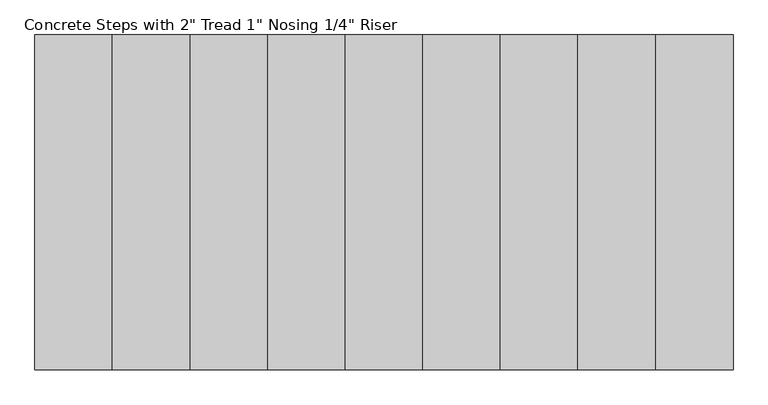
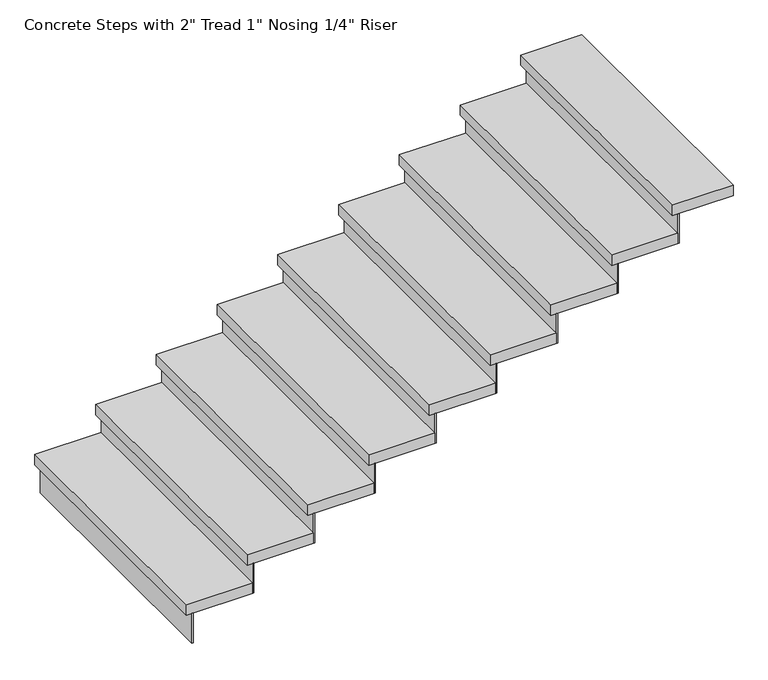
"""IFC4 building model written with IfcOpenShell, lengths in millimetres: stair flight geometry."""

import ifcopenshell
import ifcopenshell.guid

model = None  # the IFC model being written
_history = None  # IfcOwnerHistory: only IFC2X3 demands one
_inside = {}  # id of a spatial element -> (the spatial element, [elements in it])
_under = {}  # id of a project, library or spatial element -> (it, [spatial elements below it])
_declared = {}  # id of a project -> (the project, [libraries it declares])
_typed = {}  # id of a type object -> (the type object, [elements of that type])
_made_of = {}  # id of a material, layer set ... -> (it, [elements and type objects made of it])


def new_model(schema):
    """Start an empty IFC model of exactly this schema.

    Asked for "IFC4X3", IfcOpenShell would pick the latest addendum, in which some entities
    have other attributes; the version numbers below select the first issue.
    IFC2X3 requires an IfcOwnerHistory on every rooted entity: one is made here for all.
    """
    global model, _history
    if schema == "IFC4X3":
        model = ifcopenshell.file(schema_version=(4, 3, 0, 0))
    else:
        model = ifcopenshell.file(schema=schema)
    _inside.clear()
    _under.clear()
    _declared.clear()
    _typed.clear()
    _made_of.clear()
    _history = None
    if model.schema == "IFC2X3":
        org = make("IfcOrganization", Name="unknown")
        user = make(
            "IfcPersonAndOrganization",
            ThePerson=make("IfcPerson", FamilyName="unknown"),
            TheOrganization=org,
        )
        app = make(
            "IfcApplication",
            ApplicationDeveloper=org,
            Version="unknown",
            ApplicationFullName="unknown",
            ApplicationIdentifier="unknown",
        )
        _history = make(
            "IfcOwnerHistory",
            OwningUser=user,
            OwningApplication=app,
            ChangeAction="ADDED",
            CreationDate=0,
        )
    return model


def make(cls, **values):
    """One entity of the class cls with the attributes given. An attribute that is None is left unset."""
    return model.create_entity(
        cls, **{name: value for name, value in values.items() if value is not None}
    )


def rooted(cls, **values):
    """An entity with a GlobalId (a new one), such as an element, a storey or a relation."""
    return make(cls, GlobalId=ifcopenshell.guid.new(), OwnerHistory=_history, **values)


def si_unit(unit_type, name, prefix=None):
    """IfcSIUnit, for example si_unit("LENGTHUNIT", "METRE", prefix="MILLI")."""
    return make("IfcSIUnit", UnitType=unit_type, Prefix=prefix, Name=name)


def assignment(units):
    """IfcUnitAssignment: the units of a project."""
    return None if units is None else make("IfcUnitAssignment", Units=units)


def point(xyz):
    """IfcCartesianPoint."""
    return None if xyz is None else make("IfcCartesianPoint", Coordinates=xyz)


def direction(xyz):
    """IfcDirection."""
    return None if xyz is None else make("IfcDirection", DirectionRatios=xyz)


def frame(location, z_axis=None, x_axis=None):
    """IfcAxis2Placement3D, a coordinate frame: its origin and axes. An axis left out is left unset."""
    return make(
        "IfcAxis2Placement3D",
        Location=point(location),
        Axis=direction(z_axis),
        RefDirection=direction(x_axis),
    )


def origin():
    """The frame at (0, 0, 0) with its axes left unset."""
    return frame((0.0, 0.0, 0.0))


def place(relative_to, where):
    """IfcLocalPlacement: puts the frame where relative to a parent placement (None: the world)."""
    return make(
        "IfcLocalPlacement", PlacementRelTo=relative_to, RelativePlacement=where
    )


def context(
    kind, dimensions, precision=None, world=None, true_north=None, identifier=None
):
    """IfcGeometricRepresentationContext, for example the 3D "Model" context."""
    return make(
        "IfcGeometricRepresentationContext",
        ContextIdentifier=identifier,
        ContextType=kind,
        CoordinateSpaceDimension=dimensions,
        Precision=precision,
        WorldCoordinateSystem=world,
        TrueNorth=true_north,
    )


def project(units=None, contexts=None):
    """IfcProject with its units and contexts."""
    return rooted(
        "IfcProject",
        Name="project",
        RepresentationContexts=contexts,
        UnitsInContext=assignment(units),
    )


def spatial(cls, under=None, at=None, **own):
    """A site, building, storey or space (cls), placed at a placement, below another one or the project."""
    s = rooted(cls, ObjectPlacement=at, **own)
    if under is not None:
        _under.setdefault(under.id(), (under, []))[1].append(s)
    return s


def polyline(points):
    """IfcPolyline through the points."""
    return make("IfcPolyline", Points=[point(p) for p in points])


def outline(outer, holes=None, kind="AREA"):
    """IfcArbitraryClosedProfileDef: a profile drawn as a closed curve; with holes, ...WithVoids."""
    if holes is None:
        return make("IfcArbitraryClosedProfileDef", ProfileType=kind, OuterCurve=outer)
    return make(
        "IfcArbitraryProfileDefWithVoids",
        ProfileType=kind,
        OuterCurve=outer,
        InnerCurves=holes,
    )


def extrude(swept, where, along, depth):
    """IfcExtrudedAreaSolid: the profile swept, set in the frame where, extruded along a direction by depth."""
    return make(
        "IfcExtrudedAreaSolid",
        SweptArea=swept,
        Position=where,
        ExtrudedDirection=direction(along),
        Depth=depth,
    )


def shape(context_of_items, identifier, shape_type, items):
    """IfcShapeRepresentation: the items that make up one representation, for example the "Body"."""
    return make(
        "IfcShapeRepresentation",
        ContextOfItems=context_of_items,
        RepresentationIdentifier=identifier,
        RepresentationType=shape_type,
        Items=items,
    )


def source(mapping_origin, context_of_items, identifier, shape_type, items):
    """IfcRepresentationMap: a shape defined once, which mapped items show again and again."""
    return make(
        "IfcRepresentationMap",
        MappingOrigin=mapping_origin,
        MappedRepresentation=shape(context_of_items, identifier, shape_type, items),
    )


def transform(
    local_origin,
    x_axis=None,
    y_axis=None,
    z_axis=None,
    scale=None,
    scale2=None,
    scale3=None,
    uniform=True,
):
    """IfcCartesianTransformationOperator3D, or its non-uniform kind. x_axis, y_axis, z_axis: its Axis1, 2, 3."""
    if uniform:
        return make(
            "IfcCartesianTransformationOperator3D",
            Axis1=direction(x_axis),
            Axis2=direction(y_axis),
            LocalOrigin=point(local_origin),
            Scale=scale,
            Axis3=direction(z_axis),
        )
    return make(
        "IfcCartesianTransformationOperator3DnonUniform",
        Axis1=direction(x_axis),
        Axis2=direction(y_axis),
        LocalOrigin=point(local_origin),
        Scale=scale,
        Axis3=direction(z_axis),
        Scale2=scale2,
        Scale3=scale3,
    )


def mapped(mapping_source, mapping_target):
    """IfcMappedItem: shows the shape of a source again, moved by a transform."""
    return make(
        "IfcMappedItem", MappingSource=mapping_source, MappingTarget=mapping_target
    )


def made_of(thing, what):
    """Note that an element or type object is made of a material, layer set ...; save() writes the relation."""
    if what is not None:
        _made_of.setdefault(what.id(), (what, []))[1].append(thing)
    return thing


def element(
    cls,
    number,
    at=None,
    inside=None,
    cuts=None,
    type_object=None,
    material=None,
    context=None,
    identifier="Body",
    shape_type=None,
    held_by="IfcProductDefinitionShape",
    body=None,
    shapes=None,
    **own,
):
    """One element of the class cls, such as IfcWall. Its Tag is "e" and its number.

    at: its placement. inside: the storey or other place that contains it. cuts: it is an
    opening in that element (IfcRelVoidsElement). A single representation is given by context,
    identifier, shape_type and body (its items); several are given by shapes. held_by: the class
    of the entity that holds the representations. save() writes the other relations.
    """
    e = rooted(cls, Tag="e%d" % number, ObjectPlacement=at, **own)
    if body is not None:
        shapes = [shape(context, identifier, shape_type, body)]
    if shapes is not None:
        e.Representation = make(held_by, Representations=shapes)
    if inside is not None:
        _inside.setdefault(inside.id(), (inside, []))[1].append(e)
    if cuts is not None:
        rooted(
            "IfcRelVoidsElement", RelatingBuildingElement=cuts, RelatedOpeningElement=e
        )
    if type_object is not None:
        _typed.setdefault(type_object.id(), (type_object, []))[1].append(e)
    return made_of(e, material)


def aggregate(whole, parts):
    """IfcRelAggregates: a whole, such as a stair, and the parts it consists of."""
    return rooted("IfcRelAggregates", RelatingObject=whole, RelatedObjects=parts)


def save(model, path):
    """Write the relations noted so far, then the file.

    IfcRelAggregates (storeys below a building ...), IfcRelContainedInSpatialStructure (elements
    in a storey), IfcRelDefinesByType, IfcRelAssociatesMaterial and IfcRelDeclares: one each for
    every whole, place, type object, material and project.
    """
    for whole, parts in _under.values():
        aggregate(whole, parts)
    for where, things in _inside.values():
        rooted(
            "IfcRelContainedInSpatialStructure",
            RelatedElements=things,
            RelatingStructure=where,
        )
    for kind, things in _typed.values():
        rooted("IfcRelDefinesByType", RelatedObjects=things, RelatingType=kind)
    for what, things in _made_of.values():
        rooted("IfcRelAssociatesMaterial", RelatedObjects=things, RelatingMaterial=what)
    for by, libraries in _declared.values():
        rooted("IfcRelDeclares", RelatingContext=by, RelatedDefinitions=libraries)
    model.write(path)


def stair_flight_99da53d7(model_context):
    return source(origin(), model_context, "Body", "SweptSolid", [
        extrude(outline(polyline([(-9956.5313244, -31423.1861116), (-9962.8813244, -31423.1861116), (-9962.8813244, -30217.3006776), (-9956.5313244, -30217.3006776), (-9956.5313244, -31423.1861116)])), frame((0.0, 0.0, 1690.9142857), z_axis=(0.0, 0.0, 1.0), x_axis=(1.0, 0.0, 0.0)), (0.0, 0.0, 1.0), 145.1428571),
        extrude(outline(polyline([(-9683.4813244, -30217.3006776), (-9683.4813244, -31423.1861116), (-9988.2813244, -31423.1861116), (-9988.2813244, -30217.3006776), (-9683.4813244, -30217.3006776)])), frame((0.0, 0.0, 1836.0571429), z_axis=(0.0, 0.0, 1.0), x_axis=(1.0, 0.0, 0.0)), (0.0, 0.0, 1.0), 50.8),
        extrude(outline(polyline([(-9677.1313244, -31423.1861116), (-9683.4813244, -31423.1861116), (-9683.4813244, -30217.3006776), (-9677.1313244, -30217.3006776), (-9677.1313244, -31423.1861116)])), frame((0.0, 0.0, 1836.0571429), z_axis=(0.0, 0.0, 1.0), x_axis=(1.0, 0.0, 0.0)), (0.0, 0.0, 1.0), 145.1428571),
        extrude(outline(polyline([(-9404.0813244, -30217.3006776), (-9404.0813244, -31423.1861116), (-9708.8813244, -31423.1861116), (-9708.8813244, -30217.3006776), (-9404.0813244, -30217.3006776)])), frame((0.0, 0.0, 1981.2), z_axis=(0.0, 0.0, 1.0), x_axis=(1.0, 0.0, 0.0)), (0.0, 0.0, 1.0), 50.8),
        extrude(outline(polyline([(-9397.7313244, -31423.1861116), (-9404.0813244, -31423.1861116), (-9404.0813244, -30217.3006776), (-9397.7313244, -30217.3006776), (-9397.7313244, -31423.1861116)])), frame((0.0, 0.0, 1981.2), z_axis=(0.0, 0.0, 1.0), x_axis=(1.0, 0.0, 0.0)), (0.0, 0.0, 1.0), 145.1428571),
        extrude(outline(polyline([(-9124.6813244, -30217.3006776), (-9124.6813244, -31423.1861116), (-9429.4813244, -31423.1861116), (-9429.4813244, -30217.3006776), (-9124.6813244, -30217.3006776)])), frame((0.0, 0.0, 2126.3428571), z_axis=(0.0, 0.0, 1.0), x_axis=(1.0, 0.0, 0.0)), (0.0, 0.0, 1.0), 50.8),
        extrude(outline(polyline([(-9118.3313244, -31423.1861116), (-9124.6813244, -31423.1861116), (-9124.6813244, -30217.3006776), (-9118.3313244, -30217.3006776), (-9118.3313244, -31423.1861116)])), frame((0.0, 0.0, 2126.3428571), z_axis=(0.0, 0.0, 1.0), x_axis=(1.0, 0.0, 0.0)), (0.0, 0.0, 1.0), 145.1428571),
        extrude(outline(polyline([(-8845.2813244, -30217.3006776), (-8845.2813244, -31423.1861116), (-9150.0813244, -31423.1861116), (-9150.0813244, -30217.3006776), (-8845.2813244, -30217.3006776)])), frame((0.0, 0.0, 2271.4857143), z_axis=(0.0, 0.0, 1.0), x_axis=(1.0, 0.0, 0.0)), (0.0, 0.0, 1.0), 50.8),
        extrude(outline(polyline([(-8838.9313244, -31423.1861116), (-8845.2813244, -31423.1861116), (-8845.2813244, -30217.3006776), (-8838.9313244, -30217.3006776), (-8838.9313244, -31423.1861116)])), frame((0.0, 0.0, 2271.4857143), z_axis=(0.0, 0.0, 1.0), x_axis=(1.0, 0.0, 0.0)), (0.0, 0.0, 1.0), 145.1428571),
        extrude(outline(polyline([(-8565.8813244, -30217.3006776), (-8565.8813244, -31423.1861116), (-8870.6813244, -31423.1861116), (-8870.6813244, -30217.3006776), (-8565.8813244, -30217.3006776)])), frame((0.0, 0.0, 2416.6285714), z_axis=(0.0, 0.0, 1.0), x_axis=(1.0, 0.0, 0.0)), (0.0, 0.0, 1.0), 50.8),
        extrude(outline(polyline([(-8559.5313244, -31423.1861116), (-8565.8813244, -31423.1861116), (-8565.8813244, -30217.3006776), (-8559.5313244, -30217.3006776), (-8559.5313244, -31423.1861116)])), frame((0.0, 0.0, 2416.6285714), z_axis=(0.0, 0.0, 1.0), x_axis=(1.0, 0.0, 0.0)), (0.0, 0.0, 1.0), 145.1428571),
        extrude(outline(polyline([(-8286.4813244, -30217.3006776), (-8286.4813244, -31423.1861116), (-8591.2813244, -31423.1861116), (-8591.2813244, -30217.3006776), (-8286.4813244, -30217.3006776)])), frame((0.0, 0.0, 2561.7714286), z_axis=(0.0, 0.0, 1.0), x_axis=(1.0, 0.0, 0.0)), (0.0, 0.0, 1.0), 50.8),
        extrude(outline(polyline([(-8280.1313244, -31423.1861116), (-8286.4813244, -31423.1861116), (-8286.4813244, -30217.3006776), (-8280.1313244, -30217.3006776), (-8280.1313244, -31423.1861116)])), frame((0.0, 0.0, 2561.7714286), z_axis=(0.0, 0.0, 1.0), x_axis=(1.0, 0.0, 0.0)), (0.0, 0.0, 1.0), 145.1428571),
        extrude(outline(polyline([(-8007.0813244, -30217.3006776), (-8007.0813244, -31423.1861116), (-8311.8813244, -31423.1861116), (-8311.8813244, -30217.3006776), (-8007.0813244, -30217.3006776)])), frame((0.0, 0.0, 2706.9142857), z_axis=(0.0, 0.0, 1.0), x_axis=(1.0, 0.0, 0.0)), (0.0, 0.0, 1.0), 50.8),
        extrude(outline(polyline([(-8000.7313244, -31423.1861116), (-8007.0813244, -31423.1861116), (-8007.0813244, -30217.3006776), (-8000.7313244, -30217.3006776), (-8000.7313244, -31423.1861116)])), frame((0.0, 0.0, 2706.9142857), z_axis=(0.0, 0.0, 1.0), x_axis=(1.0, 0.0, 0.0)), (0.0, 0.0, 1.0), 145.1428571),
        extrude(outline(polyline([(-7727.6813244, -30217.3006776), (-7727.6813244, -31423.1861116), (-8032.4813244, -31423.1861116), (-8032.4813244, -30217.3006776), (-7727.6813244, -30217.3006776)])), frame((0.0, 0.0, 2852.0571429), z_axis=(0.0, 0.0, 1.0), x_axis=(1.0, 0.0, 0.0)), (0.0, 0.0, 1.0), 50.8),
        extrude(outline(polyline([(-7721.3313244, -31423.1861116), (-7727.6813244, -31423.1861116), (-7727.6813244, -30217.3006776), (-7721.3313244, -30217.3006776), (-7721.3313244, -31423.1861116)])), frame((0.0, 0.0, 2852.0571429), z_axis=(0.0, 0.0, 1.0), x_axis=(1.0, 0.0, 0.0)), (0.0, 0.0, 1.0), 145.1428571),
        extrude(outline(polyline([(-7473.6813244, -30217.3006776), (-7473.6813244, -31423.1861116), (-7753.0813244, -31423.1861116), (-7753.0813244, -30217.3006776), (-7473.6813244, -30217.3006776)])), frame((0.0, 0.0, 2997.2), z_axis=(0.0, 0.0, 1.0), x_axis=(1.0, 0.0, 0.0)), (0.0, 0.0, 1.0), 50.8),
    ])


if __name__ == "__main__":
    model = new_model("IFC4")
    model_context = context("Model", 3, world=origin())
    ifc_project = project(units=[si_unit("LENGTHUNIT", "METRE", prefix="MILLI")], contexts=[model_context])
    site = spatial("IfcSite", under=ifc_project)
    building = spatial("IfcBuilding", under=site)
    placement = place(None, origin())
    stair_flight_shape = stair_flight_99da53d7(model_context)
    element("IfcStairFlight", 1, ObjectType="Concrete Steps with 2\" Tread 1\" Nosing 1/4\" Riser", at=placement, inside=building, context=model_context, shape_type="MappedRepresentation", body=[
        mapped(stair_flight_shape, transform((0.0, 0.0, 0.0), x_axis=(1.0, 0.0, 0.0), y_axis=(0.0, 1.0, 0.0), z_axis=(0.0, 0.0, 1.0))),
    ])
    save(model, "model.ifc")
